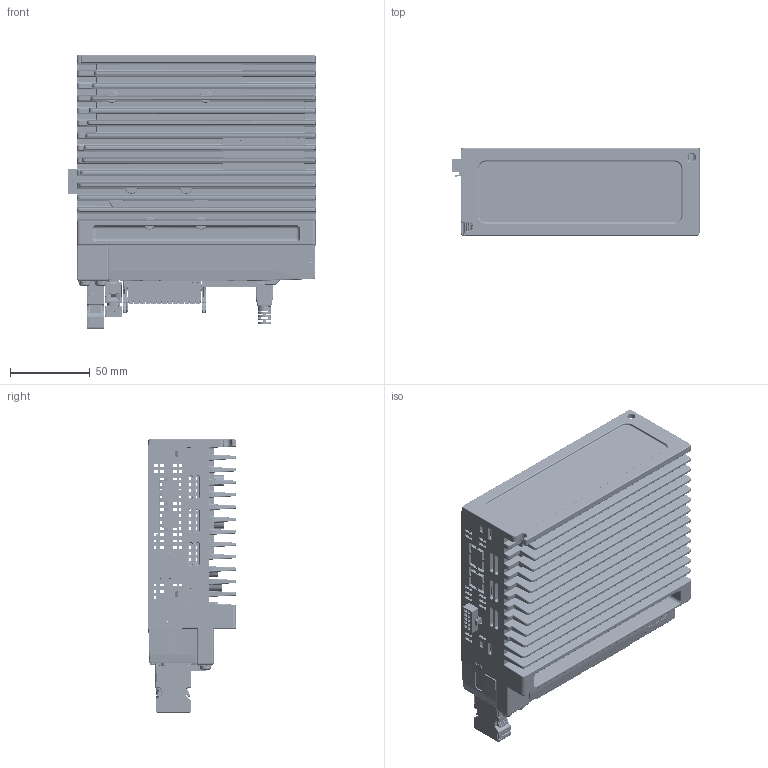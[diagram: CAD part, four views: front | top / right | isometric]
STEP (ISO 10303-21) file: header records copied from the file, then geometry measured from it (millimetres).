
FILE_DESCRIPTION((''),'2;1');
FILE_NAME('M56S-23A0ECX_ASM','2025-04-03T09:48:43',('ms27526'),(''),'CREO PARAMETRIC BY PTC INC, 2018100','CREO PARAMETRIC BY PTC INC, 2018100','');
FILE_SCHEMA(('CONFIG_CONTROL_DESIGN'));
Products named in the file (138): 3698201101552_A1-9; 3698201101552_A1-162; M2ESVAC4M2E00; 700; 800; 600; 4219122000973_1451; USB_; 15EDGKNHG-3_5-26P-1Y-00AH-79809; 15EDGKNHG-3_5-26P-1Y-00AH-79895; 15EDGKNHG-3_5-26P-1Y-00AH-79981; 15EDGKNHG-3_5-26P-1Y-00A-200856; 15EDGKNHG-3_5-26P-1Y-00A-200942; 15EDGKNHG-3_5-26P-1Y-00A-201028; 15EDGKNHG-3_5-26P-1Y-00A-201287; 15EDGKNHG-3_5-26P-1Y-00A-201546; 15EDGKNHG-3_5-26P-1Y-00A-201632; 15EDGKNHG-3_5-26P-1Y-00A-201718; 15EDGKNHG-3_5-26P-1Y-00A-201804; 15EDGKNHG-3_5-26P-1Y-00A-202063; 15EDGKNHG-3_5-26P-1Y-00A-202149; 15EDGKNHG-3_5-26P-1Y-00A-202408; 15EDGKNHG-3_5-26P-1Y-00A-202667; 15EDGKNHG-3_5-26P-1Y-00A-202753; 15EDGKNHG-3_5-26P-1Y-00A-203012; 15EDGKNHG-3_5-26P-1Y-00A-203271; 15EDGKNHG-3_5-26P-1Y-00A-203357; 15EDGKNHG-3_5-26P-1Y-00A-203443; 15EDGKNHG-3_5-26P-1Y-00A-203529; 15EDGKNHG-3_5-26P-1Y-00A-203615; 15EDGKNHG-3_5-26P-1Y-00A-203701; 15EDGKNHG-3_5-26P-1Y-00A-203960; 15EDGKNHG-3_5-26P-1Y-00A-204046; 15EDGKNHG-3_5-26P-1Y-00A-204305; 15EDGKNHG-3_5-26P-1Y-00A-204391; 15EDGKNHG-3_5-26P-1Y-00A-204650; 15EDGKNHG-3_5-26P-1Y-00A-204909; 15EDGKNHG-3_5-26P-1Y-00A-205168; 15EDGKNHG-3_5-26P-1Y-00A-205254; 15EDGKNHG-3_5-26P-1Y-00A-205340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
Assembly tree (137 placements, depth 3):
  M56S-23A0ECX_ASM
    M56S-400W_ASM
      3698201101552_A1-9
      3698201101552_A1-162
      M2ESVAC4M2E00
      700
      800
      600
      4219122000973_1451
      USB_
      15EDGKNHG-3_5-26P-1Y-00AH-79809
      15EDGKNHG-3_5-26P-1Y-00AH-79895
      15EDGKNHG-3_5-26P-1Y-00AH-79981
      15EDGKNHG-3_5-26P-1Y-00A-200856
      15EDGKNHG-3_5-26P-1Y-00A-200942
      15EDGKNHG-3_5-26P-1Y-00A-201028
      15EDGKNHG-3_5-26P-1Y-00A-201287
      15EDGKNHG-3_5-26P-1Y-00A-201546
      15EDGKNHG-3_5-26P-1Y-00A-201632
      15EDGKNHG-3_5-26P-1Y-00A-201718
      15EDGKNHG-3_5-26P-1Y-00A-201804
      15EDGKNHG-3_5-26P-1Y-00A-202063
      15EDGKNHG-3_5-26P-1Y-00A-202149
      15EDGKNHG-3_5-26P-1Y-00A-202408
      15EDGKNHG-3_5-26P-1Y-00A-202667
      15EDGKNHG-3_5-26P-1Y-00A-202753
      15EDGKNHG-3_5-26P-1Y-00A-203012
      15EDGKNHG-3_5-26P-1Y-00A-203271
      15EDGKNHG-3_5-26P-1Y-00A-203357
      15EDGKNHG-3_5-26P-1Y-00A-203443
      15EDGKNHG-3_5-26P-1Y-00A-203529
      15EDGKNHG-3_5-26P-1Y-00A-203615
      15EDGKNHG-3_5-26P-1Y-00A-203701
      15EDGKNHG-3_5-26P-1Y-00A-203960
      15EDGKNHG-3_5-26P-1Y-00A-204046
      15EDGKNHG-3_5-26P-1Y-00A-204305
      15EDGKNHG-3_5-26P-1Y-00A-204391
      15EDGKNHG-3_5-26P-1Y-00A-204650
      15EDGKNHG-3_5-26P-1Y-00A-204909
      15EDGKNHG-3_5-26P-1Y-00A-205168
      15EDGKNHG-3_5-26P-1Y-00A-205254
      15EDGKNHG-3_5-26P-1Y-00A-205340
      15EDGKNHG-3_5-26P-1Y-00A-205426
      15EDGKNHG-3_5-26P-1Y-00A-205512
      15EDGKNHG-3_5-26P-1Y-00A-205771
      3698201102238200W000_SOLID_1
      2256000
      BOARD
      514697808
      514708608
      BOARD_1
      6361-08FZXXDXMRX_1_QUILT_1
      6361-08FZXXDXMRX_1_QUILT_2
      6361-08FZXXDXMRX_1_QUILT_3
      6361-08FZXXDXMRX_1_QUILT_4
      6361-08FZXXDXMRX_1_QUILT_5
      6361-08FZXXDXMRX_1_QUILT_6
      6361-08FZXXDXMRX_1_QUILT_7
      5938414592_1_QUILT_1
      5938414592_1_QUILT_2
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Bounding box: 155.41 x 55.2 x 171.63 mm (x, y, z)
Volume: 337445.9 mm3; surface area: 327336.9 mm2
Topology: 81 solids, 145 shells, 20642 faces, 56731 edges, 35990 vertices
Faces by surface type: plane 11639, cylinder 5811, cone 1167, bspline 1085, torus 556, sphere 256, extrusion 128
Entity records: 724537 total; most frequent: CARTESIAN_POINT 206276, ORIENTED_EDGE 110938, DIRECTION 101300, EDGE_CURVE 56237, VECTOR 38246, LINE 38118, VERTEX_POINT 35989, AXIS2_PLACEMENT_3D 31527
